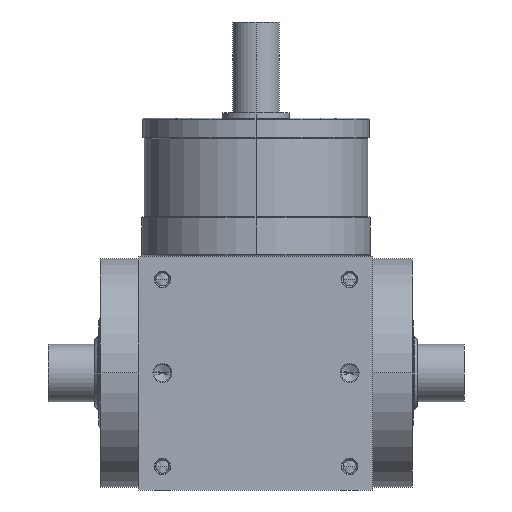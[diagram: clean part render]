
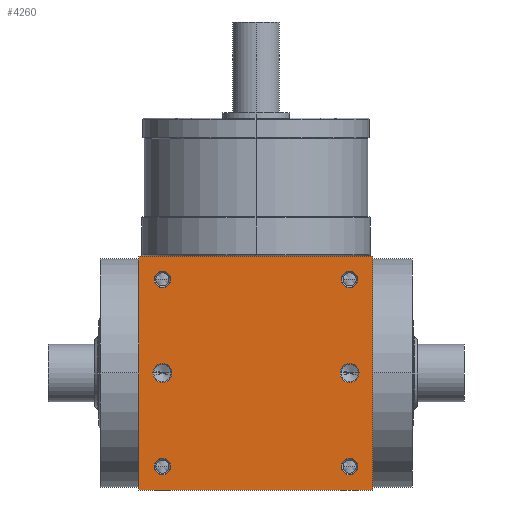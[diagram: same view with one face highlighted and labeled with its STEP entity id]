
A CAD part, front view. The second image highlights one B-rep face of the part: STEP entity #4260.
In plain terms, the highlighted planar face has unit normal (0, -1, 0).
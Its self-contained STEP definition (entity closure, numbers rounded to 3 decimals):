
#5=DIRECTION('',(1.,0.,0.));
#6=VECTOR('',#5,90.);
#7=CARTESIAN_POINT('',(-45.,-45.,-45.));
#8=LINE('',#7,#6);
#155=DIRECTION('',(0.,0.,1.));
#156=VECTOR('',#155,90.);
#157=CARTESIAN_POINT('',(45.,-45.,-45.));
#158=LINE('',#157,#156);
#209=DIRECTION('',(0.,0.,1.));
#210=VECTOR('',#209,90.);
#211=CARTESIAN_POINT('',(-45.,-45.,-45.));
#212=LINE('',#211,#210);
#213=CARTESIAN_POINT('',(36.,-45.,36.));
#214=DIRECTION('',(0.,1.,0.));
#215=DIRECTION('',(-1.,0.,0.));
#216=AXIS2_PLACEMENT_3D('',#213,#214,#215);
#218=CARTESIAN_POINT('',(36.,-45.,36.));
#219=DIRECTION('',(0.,1.,0.));
#220=DIRECTION('',(1.,0.,0.));
#221=AXIS2_PLACEMENT_3D('',#218,#219,#220);
#223=CARTESIAN_POINT('',(-36.,-45.,36.));
#224=DIRECTION('',(0.,1.,0.));
#225=DIRECTION('',(-1.,0.,0.));
#226=AXIS2_PLACEMENT_3D('',#223,#224,#225);
#228=CARTESIAN_POINT('',(-36.,-45.,36.));
#229=DIRECTION('',(0.,1.,0.));
#230=DIRECTION('',(1.,0.,0.));
#231=AXIS2_PLACEMENT_3D('',#228,#229,#230);
#233=CARTESIAN_POINT('',(36.,-45.,-36.));
#234=DIRECTION('',(0.,1.,0.));
#235=DIRECTION('',(-1.,0.,0.));
#236=AXIS2_PLACEMENT_3D('',#233,#234,#235);
#238=CARTESIAN_POINT('',(36.,-45.,-36.));
#239=DIRECTION('',(0.,1.,0.));
#240=DIRECTION('',(1.,0.,0.));
#241=AXIS2_PLACEMENT_3D('',#238,#239,#240);
#243=CARTESIAN_POINT('',(-36.,-45.,-36.));
#244=DIRECTION('',(0.,1.,0.));
#245=DIRECTION('',(-1.,0.,0.));
#246=AXIS2_PLACEMENT_3D('',#243,#244,#245);
#248=CARTESIAN_POINT('',(-36.,-45.,-36.));
#249=DIRECTION('',(0.,1.,0.));
#250=DIRECTION('',(1.,0.,0.));
#251=AXIS2_PLACEMENT_3D('',#248,#249,#250);
#253=CARTESIAN_POINT('',(-36.,-45.,0.));
#254=DIRECTION('',(0.,1.,0.));
#255=DIRECTION('',(1.,0.,0.));
#256=AXIS2_PLACEMENT_3D('',#253,#254,#255);
#258=CARTESIAN_POINT('',(-36.,-45.,0.));
#259=DIRECTION('',(0.,1.,0.));
#260=DIRECTION('',(-1.,0.,0.));
#261=AXIS2_PLACEMENT_3D('',#258,#259,#260);
#263=CARTESIAN_POINT('',(36.,-45.,0.));
#264=DIRECTION('',(0.,1.,0.));
#265=DIRECTION('',(1.,0.,0.));
#266=AXIS2_PLACEMENT_3D('',#263,#264,#265);
#268=CARTESIAN_POINT('',(36.,-45.,0.));
#269=DIRECTION('',(0.,1.,0.));
#270=DIRECTION('',(-1.,0.,0.));
#271=AXIS2_PLACEMENT_3D('',#268,#269,#270);
#285=DIRECTION('',(1.,0.,0.));
#286=VECTOR('',#285,90.);
#287=CARTESIAN_POINT('',(-45.,-45.,45.));
#288=LINE('',#287,#286);
#3426=CARTESIAN_POINT('',(-45.,-45.,-45.));
#3428=VERTEX_POINT('',#3426);
#3429=CARTESIAN_POINT('',(45.,-45.,-45.));
#3430=VERTEX_POINT('',#3429);
#3434=CARTESIAN_POINT('',(-45.,-45.,45.));
#3436=VERTEX_POINT('',#3434);
#3437=CARTESIAN_POINT('',(45.,-45.,45.));
#3438=VERTEX_POINT('',#3437);
#3593=CARTESIAN_POINT('',(32.8,-45.,36.));
#3594=CARTESIAN_POINT('',(39.2,-45.,36.));
#3595=VERTEX_POINT('',#3593);
#3596=VERTEX_POINT('',#3594);
#3601=CARTESIAN_POINT('',(-39.2,-45.,36.));
#3602=CARTESIAN_POINT('',(-32.8,-45.,36.));
#3603=VERTEX_POINT('',#3601);
#3604=VERTEX_POINT('',#3602);
#3609=CARTESIAN_POINT('',(32.8,-45.,-36.));
#3610=CARTESIAN_POINT('',(39.2,-45.,-36.));
#3611=VERTEX_POINT('',#3609);
#3612=VERTEX_POINT('',#3610);
#3617=CARTESIAN_POINT('',(-39.2,-45.,-36.));
#3618=CARTESIAN_POINT('',(-32.8,-45.,-36.));
#3619=VERTEX_POINT('',#3617);
#3620=VERTEX_POINT('',#3618);
#3941=CARTESIAN_POINT('',(-32.35,-45.,
0.));
#3942=CARTESIAN_POINT('',(-39.65,-45.,
0.));
#3943=VERTEX_POINT('',#3941);
#3944=VERTEX_POINT('',#3942);
#3949=CARTESIAN_POINT('',(39.65,-45.,0.));
#3950=CARTESIAN_POINT('',(32.35,-45.,0.));
#3951=VERTEX_POINT('',#3949);
#3952=VERTEX_POINT('',#3950);
#4212=CARTESIAN_POINT('',(-45.,-45.,-45.));
#4213=DIRECTION('',(0.,-1.,0.));
#4214=DIRECTION('',(1.,0.,0.));
#4215=AXIS2_PLACEMENT_3D('',#4212,#4213,#4214);
#4216=PLANE('',#4215);
#4217=ORIENTED_EDGE('',*,*,#4052,.F.);
#4218=ORIENTED_EDGE('',*,*,#4095,.T.);
#4220=ORIENTED_EDGE('',*,*,#4219,.T.);
#4221=ORIENTED_EDGE('',*,*,#4174,.F.);
#4222=EDGE_LOOP('',(#4217,#4218,#4220,#4221));
#4223=FACE_OUTER_BOUND('',#4222,.F.);
#4225=ORIENTED_EDGE('',*,*,#4224,.F.);
#4227=ORIENTED_EDGE('',*,*,#4226,.F.);
#4228=EDGE_LOOP('',(#4225,#4227));
#4229=FACE_BOUND('',#4228,.F.);
#4231=ORIENTED_EDGE('',*,*,#4230,.F.);
#4233=ORIENTED_EDGE('',*,*,#4232,.F.);
#4234=EDGE_LOOP('',(#4231,#4233));
#4235=FACE_BOUND('',#4234,.F.);
#4237=ORIENTED_EDGE('',*,*,#4236,.F.);
#4239=ORIENTED_EDGE('',*,*,#4238,.F.);
#4240=EDGE_LOOP('',(#4237,#4239));
#4241=FACE_BOUND('',#4240,.F.);
#4243=ORIENTED_EDGE('',*,*,#4242,.F.);
#4245=ORIENTED_EDGE('',*,*,#4244,.F.);
#4246=EDGE_LOOP('',(#4243,#4245));
#4247=FACE_BOUND('',#4246,.F.);
#4249=ORIENTED_EDGE('',*,*,#4248,.F.);
#4251=ORIENTED_EDGE('',*,*,#4250,.F.);
#4252=EDGE_LOOP('',(#4249,#4251));
#4253=FACE_BOUND('',#4252,.F.);
#4255=ORIENTED_EDGE('',*,*,#4254,.F.);
#4257=ORIENTED_EDGE('',*,*,#4256,.F.);
#4258=EDGE_LOOP('',(#4255,#4257));
#4259=FACE_BOUND('',#4258,.F.);
#4260=ADVANCED_FACE('',(#4223,#4229,#4235,#4241,#4247,#4253,#4259),#4216,.T.);
#217=CIRCLE('',#216,3.2);
#222=CIRCLE('',#221,3.2);
#227=CIRCLE('',#226,3.2);
#232=CIRCLE('',#231,3.2);
#237=CIRCLE('',#236,3.2);
#242=CIRCLE('',#241,3.2);
#247=CIRCLE('',#246,3.2);
#252=CIRCLE('',#251,3.2);
#257=CIRCLE('',#256,3.65);
#262=CIRCLE('',#261,3.65);
#267=CIRCLE('',#266,3.65);
#272=CIRCLE('',#271,3.65);
#4052=EDGE_CURVE('',#3428,#3430,#8,.T.);
#4095=EDGE_CURVE('',#3428,#3436,#212,.T.);
#4174=EDGE_CURVE('',#3430,#3438,#158,.T.);
#4219=EDGE_CURVE('',#3436,#3438,#288,.T.);
#4224=EDGE_CURVE('',#3595,#3596,#217,.T.);
#4226=EDGE_CURVE('',#3596,#3595,#222,.T.);
#4230=EDGE_CURVE('',#3603,#3604,#227,.T.);
#4232=EDGE_CURVE('',#3604,#3603,#232,.T.);
#4236=EDGE_CURVE('',#3611,#3612,#237,.T.);
#4238=EDGE_CURVE('',#3612,#3611,#242,.T.);
#4242=EDGE_CURVE('',#3619,#3620,#247,.T.);
#4244=EDGE_CURVE('',#3620,#3619,#252,.T.);
#4248=EDGE_CURVE('',#3943,#3944,#257,.T.);
#4250=EDGE_CURVE('',#3944,#3943,#262,.T.);
#4254=EDGE_CURVE('',#3951,#3952,#267,.T.);
#4256=EDGE_CURVE('',#3952,#3951,#272,.T.);
